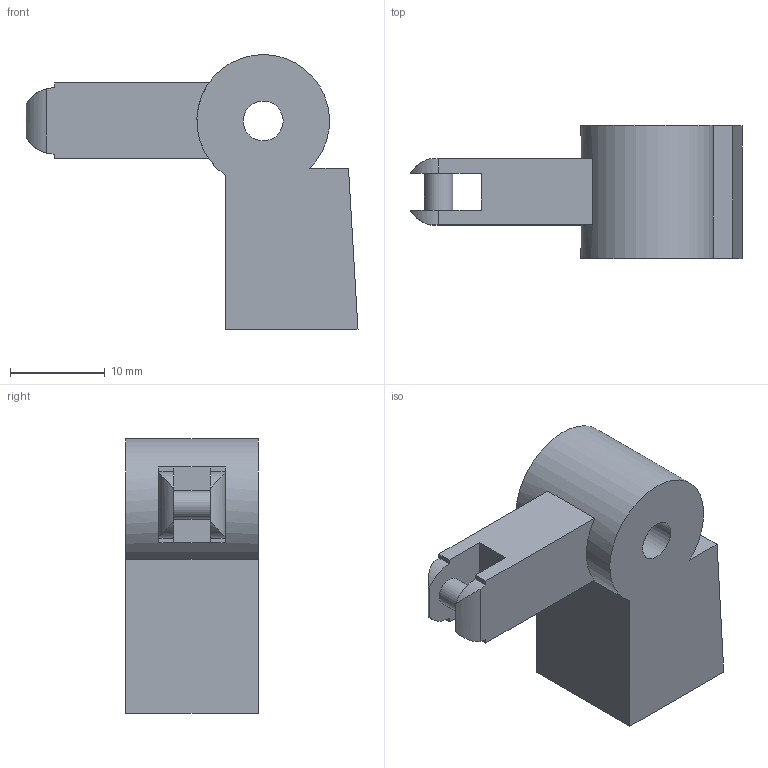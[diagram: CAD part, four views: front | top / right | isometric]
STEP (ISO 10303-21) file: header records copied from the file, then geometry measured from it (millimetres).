
FILE_DESCRIPTION(('Open CASCADE Model'),'2;1');
FILE_NAME('Open CASCADE Shape Model','2026-10-15T18:27:22',('Author'),( 'Open CASCADE'),'Open CASCADE STEP processor 7.9','Open CASCADE 7.9' ,'Unknown');
FILE_SCHEMA(('AUTOMOTIVE_DESIGN { 1 0 10303 214 1 1 1 1 }'));
Length unit declared in the file: millimetre
Products named in the file (1): Open CASCADE STEP translator 7.9 22
Bounding box: 35.03 x 14 x 29 mm (x, y, z)
Volume: 5783.5 mm3; surface area: 2698.7 mm2
Topology: 1 solids, 1 shells, 26 faces, 69 edges, 46 vertices
Faces by surface type: plane 17, cylinder 9
Full cylindrical faces by diameter (mm): 3 x1, 4.2 x1
Entity records: 1867 total; most frequent: CARTESIAN_POINT 572, DIRECTION 208, ORIENTED_EDGE 138, PCURVE 138, DEFINITIONAL_REPRESENTATION 138, LINE 117, VECTOR 117, EDGE_CURVE 69
